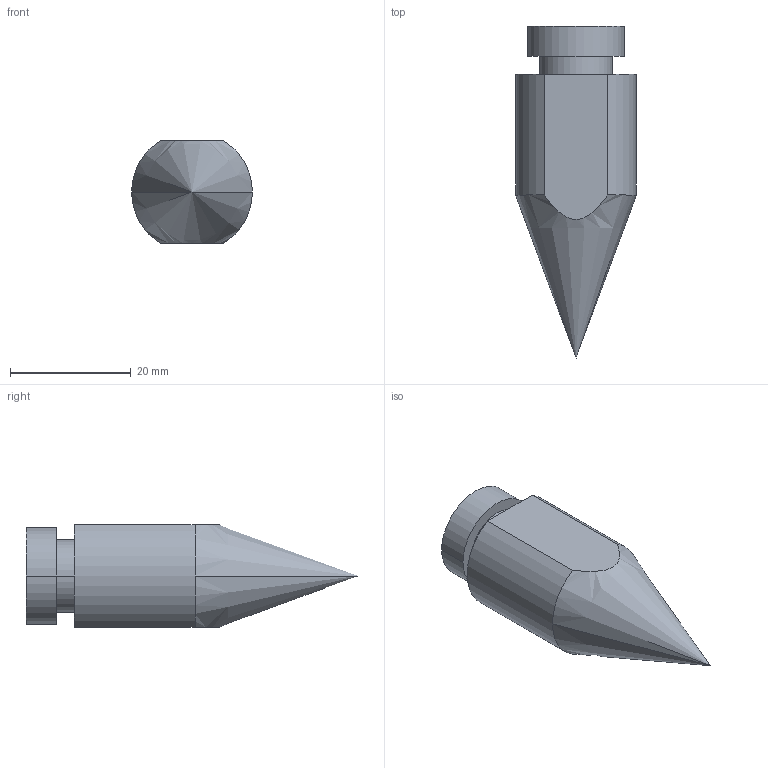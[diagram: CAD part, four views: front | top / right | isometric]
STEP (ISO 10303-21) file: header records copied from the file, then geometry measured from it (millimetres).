
FILE_DESCRIPTION (( 'STEP AP214' ), '1' );
FILE_NAME ('02_梓隅渀_03俋蹟恇_L47.STEP', '2020-07-15T06:02:07', ( '' ), ( '' ), 'SwSTEP 2.0', 'SolidWorks 2017', '' );
FILE_SCHEMA (( 'AUTOMOTIVE_DESIGN' ));
Length unit declared in the file: millimetre
Products named in the file (1): 02_梓隅渀_03俋蹟恇_L47
Bounding box: 20 x 55 x 17 mm (x, y, z)
Volume: 9992.9 mm3; surface area: 2966.2 mm2
Topology: 1 solids, 1 shells, 14 faces, 32 edges, 20 vertices
Faces by surface type: cylinder 7, plane 5, cone 2
Entity records: 465 total; most frequent: CARTESIAN_POINT 111, DIRECTION 73, ORIENTED_EDGE 60, EDGE_CURVE 30, AXIS2_PLACEMENT_3D 30, VERTEX_POINT 20, EDGE_LOOP 16, CIRCLE 15
